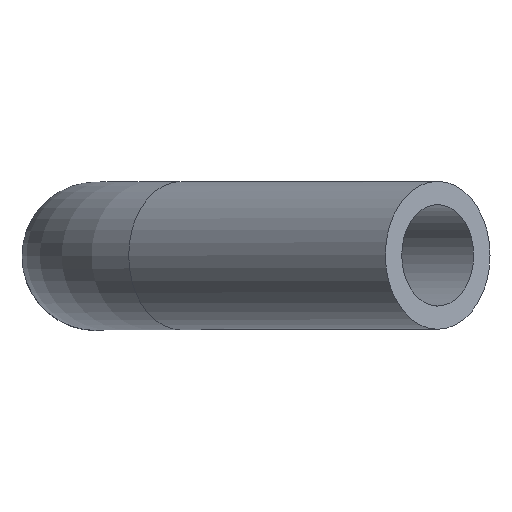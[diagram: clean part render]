
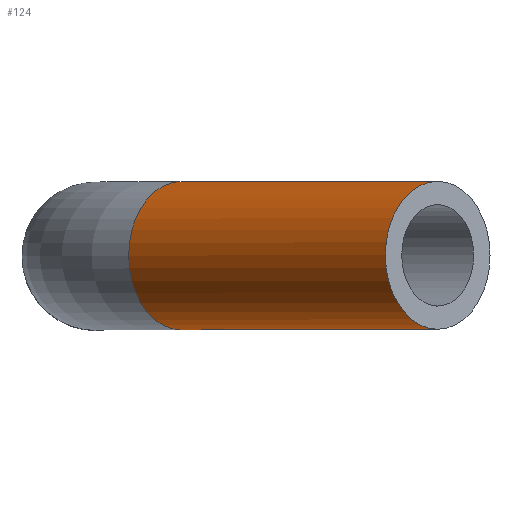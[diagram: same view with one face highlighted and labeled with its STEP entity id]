
A CAD part, top view. The second image highlights one B-rep face of the part: STEP entity #124.
In plain terms, the highlighted cylindrical face has radius 5.1 mm (diameter 10.2 mm), a full revolution.
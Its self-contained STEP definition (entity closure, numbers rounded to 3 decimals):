
#33=FACE_OUTER_BOUND('',#41,.T.);
#41=EDGE_LOOP('',(#101,#102,#103,#104));
#50=LINE('',#231,#54);
#54=VECTOR('',#192,5.1);
#61=CIRCLE('',#158,5.1);
#62=CIRCLE('',#159,5.1);
#71=VERTEX_POINT('',#228);
#72=VERTEX_POINT('',#230);
#82=EDGE_CURVE('',#71,#71,#61,.T.);
#83=EDGE_CURVE('',#71,#72,#50,.T.);
#84=EDGE_CURVE('',#72,#72,#62,.T.);
#101=ORIENTED_EDGE('',*,*,#82,.T.);
#102=ORIENTED_EDGE('',*,*,#83,.T.);
#103=ORIENTED_EDGE('',*,*,#84,.F.);
#104=ORIENTED_EDGE('',*,*,#83,.F.);
#119=CYLINDRICAL_SURFACE('',#157,5.1);
#124=ADVANCED_FACE('',(#33),#119,.T.);
#157=AXIS2_PLACEMENT_3D('',#227,#188,#189);
#158=AXIS2_PLACEMENT_3D('',#229,#190,#191);
#159=AXIS2_PLACEMENT_3D('',#232,#193,#194);
#188=DIRECTION('center_axis',(0.707,0.,0.707));
#189=DIRECTION('ref_axis',(-0.707,0.,0.707));
#190=DIRECTION('center_axis',(-0.707,0.,-0.707));
#191=DIRECTION('ref_axis',(-0.707,0.,0.707));
#192=DIRECTION('',(-0.707,0.,-0.707));
#193=DIRECTION('center_axis',(-0.707,0.,-0.707));
#194=DIRECTION('ref_axis',(-0.707,0.,0.707));
#227=CARTESIAN_POINT('Origin',(5.858,0.,39.158));
#228=CARTESIAN_POINT('',(27.153,0.,53.24));
#229=CARTESIAN_POINT('Origin',(23.547,0.,56.847));
#230=CARTESIAN_POINT('',(9.464,0.,35.552));
#231=CARTESIAN_POINT('',(9.464,0.,35.552));
#232=CARTESIAN_POINT('Origin',(5.858,0.,39.158));
